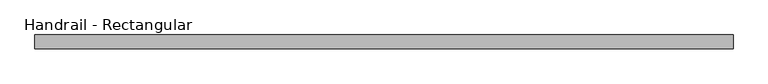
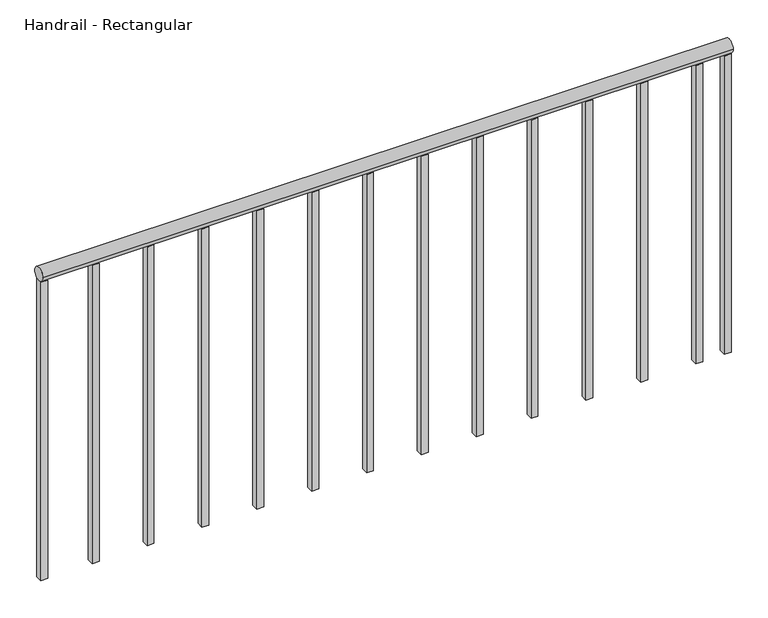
"""IFC4 building model written with IfcOpenShell, lengths in millimetres: railing geometry, Handrail - Rectangular."""

import ifcopenshell
import ifcopenshell.guid

model = None  # the IFC model being written
_history = None  # IfcOwnerHistory: only IFC2X3 demands one
_inside = {}  # id of a spatial element -> (the spatial element, [elements in it])
_under = {}  # id of a project, library or spatial element -> (it, [spatial elements below it])
_declared = {}  # id of a project -> (the project, [libraries it declares])
_typed = {}  # id of a type object -> (the type object, [elements of that type])
_made_of = {}  # id of a material, layer set ... -> (it, [elements and type objects made of it])


def new_model(schema):
    """Start an empty IFC model of exactly this schema.

    Asked for "IFC4X3", IfcOpenShell would pick the latest addendum, in which some entities
    have other attributes; the version numbers below select the first issue.
    IFC2X3 requires an IfcOwnerHistory on every rooted entity: one is made here for all.
    """
    global model, _history
    if schema == "IFC4X3":
        model = ifcopenshell.file(schema_version=(4, 3, 0, 0))
    else:
        model = ifcopenshell.file(schema=schema)
    _inside.clear()
    _under.clear()
    _declared.clear()
    _typed.clear()
    _made_of.clear()
    _history = None
    if model.schema == "IFC2X3":
        org = make("IfcOrganization", Name="unknown")
        user = make(
            "IfcPersonAndOrganization",
            ThePerson=make("IfcPerson", FamilyName="unknown"),
            TheOrganization=org,
        )
        app = make(
            "IfcApplication",
            ApplicationDeveloper=org,
            Version="unknown",
            ApplicationFullName="unknown",
            ApplicationIdentifier="unknown",
        )
        _history = make(
            "IfcOwnerHistory",
            OwningUser=user,
            OwningApplication=app,
            ChangeAction="ADDED",
            CreationDate=0,
        )
    return model


def make(cls, **values):
    """One entity of the class cls with the attributes given. An attribute that is None is left unset."""
    return model.create_entity(
        cls, **{name: value for name, value in values.items() if value is not None}
    )


def rooted(cls, **values):
    """An entity with a GlobalId (a new one), such as an element, a storey or a relation."""
    return make(cls, GlobalId=ifcopenshell.guid.new(), OwnerHistory=_history, **values)


def si_unit(unit_type, name, prefix=None):
    """IfcSIUnit, for example si_unit("LENGTHUNIT", "METRE", prefix="MILLI")."""
    return make("IfcSIUnit", UnitType=unit_type, Prefix=prefix, Name=name)


def assignment(units):
    """IfcUnitAssignment: the units of a project."""
    return None if units is None else make("IfcUnitAssignment", Units=units)


def point(xyz):
    """IfcCartesianPoint."""
    return None if xyz is None else make("IfcCartesianPoint", Coordinates=xyz)


def direction(xyz):
    """IfcDirection."""
    return None if xyz is None else make("IfcDirection", DirectionRatios=xyz)


def frame(location, z_axis=None, x_axis=None):
    """IfcAxis2Placement3D, a coordinate frame: its origin and axes. An axis left out is left unset."""
    return make(
        "IfcAxis2Placement3D",
        Location=point(location),
        Axis=direction(z_axis),
        RefDirection=direction(x_axis),
    )


def frame_2d(location, x_axis=None):
    """IfcAxis2Placement2D, a coordinate frame in the plane: its origin and x axis."""
    return make(
        "IfcAxis2Placement2D", Location=point(location), RefDirection=direction(x_axis)
    )


def origin():
    """The frame at (0, 0, 0) with its axes left unset."""
    return frame((0.0, 0.0, 0.0))


def place(relative_to, where):
    """IfcLocalPlacement: puts the frame where relative to a parent placement (None: the world)."""
    return make(
        "IfcLocalPlacement", PlacementRelTo=relative_to, RelativePlacement=where
    )


def context(
    kind, dimensions, precision=None, world=None, true_north=None, identifier=None
):
    """IfcGeometricRepresentationContext, for example the 3D "Model" context."""
    return make(
        "IfcGeometricRepresentationContext",
        ContextIdentifier=identifier,
        ContextType=kind,
        CoordinateSpaceDimension=dimensions,
        Precision=precision,
        WorldCoordinateSystem=world,
        TrueNorth=true_north,
    )


def project(units=None, contexts=None):
    """IfcProject with its units and contexts."""
    return rooted(
        "IfcProject",
        Name="project",
        RepresentationContexts=contexts,
        UnitsInContext=assignment(units),
    )


def spatial(cls, under=None, at=None, **own):
    """A site, building, storey or space (cls), placed at a placement, below another one or the project."""
    s = rooted(cls, ObjectPlacement=at, **own)
    if under is not None:
        _under.setdefault(under.id(), (under, []))[1].append(s)
    return s


def polyline(points):
    """IfcPolyline through the points."""
    return make("IfcPolyline", Points=[point(p) for p in points])


def circle_curve(where, radius):
    """IfcCircle in the frame where."""
    return make("IfcCircle", Position=where, Radius=radius)


def trimmed(basis, trim1, trim2, sense, master):
    """IfcTrimmedCurve: the piece of a basis curve between two trims."""
    return make(
        "IfcTrimmedCurve",
        BasisCurve=basis,
        Trim1=trim1,
        Trim2=trim2,
        SenseAgreement=sense,
        MasterRepresentation=master,
    )


def segment(curve, same_sense, transition):
    """IfcCompositeCurveSegment."""
    return make(
        "IfcCompositeCurveSegment",
        Transition=transition,
        SameSense=same_sense,
        ParentCurve=curve,
    )


def composite_curve(segments, self_intersect=None):
    """IfcCompositeCurve: segments joined end to end."""
    return make("IfcCompositeCurve", Segments=segments, SelfIntersect=self_intersect)


def outline(outer, holes=None, kind="AREA"):
    """IfcArbitraryClosedProfileDef: a profile drawn as a closed curve; with holes, ...WithVoids."""
    if holes is None:
        return make("IfcArbitraryClosedProfileDef", ProfileType=kind, OuterCurve=outer)
    return make(
        "IfcArbitraryProfileDefWithVoids",
        ProfileType=kind,
        OuterCurve=outer,
        InnerCurves=holes,
    )


def extrude(swept, where, along, depth):
    """IfcExtrudedAreaSolid: the profile swept, set in the frame where, extruded along a direction by depth."""
    return make(
        "IfcExtrudedAreaSolid",
        SweptArea=swept,
        Position=where,
        ExtrudedDirection=direction(along),
        Depth=depth,
    )


def shape(context_of_items, identifier, shape_type, items):
    """IfcShapeRepresentation: the items that make up one representation, for example the "Body"."""
    return make(
        "IfcShapeRepresentation",
        ContextOfItems=context_of_items,
        RepresentationIdentifier=identifier,
        RepresentationType=shape_type,
        Items=items,
    )


def source(mapping_origin, context_of_items, identifier, shape_type, items):
    """IfcRepresentationMap: a shape defined once, which mapped items show again and again."""
    return make(
        "IfcRepresentationMap",
        MappingOrigin=mapping_origin,
        MappedRepresentation=shape(context_of_items, identifier, shape_type, items),
    )


def transform(
    local_origin,
    x_axis=None,
    y_axis=None,
    z_axis=None,
    scale=None,
    scale2=None,
    scale3=None,
    uniform=True,
):
    """IfcCartesianTransformationOperator3D, or its non-uniform kind. x_axis, y_axis, z_axis: its Axis1, 2, 3."""
    if uniform:
        return make(
            "IfcCartesianTransformationOperator3D",
            Axis1=direction(x_axis),
            Axis2=direction(y_axis),
            LocalOrigin=point(local_origin),
            Scale=scale,
            Axis3=direction(z_axis),
        )
    return make(
        "IfcCartesianTransformationOperator3DnonUniform",
        Axis1=direction(x_axis),
        Axis2=direction(y_axis),
        LocalOrigin=point(local_origin),
        Scale=scale,
        Axis3=direction(z_axis),
        Scale2=scale2,
        Scale3=scale3,
    )


def mapped(mapping_source, mapping_target):
    """IfcMappedItem: shows the shape of a source again, moved by a transform."""
    return make(
        "IfcMappedItem", MappingSource=mapping_source, MappingTarget=mapping_target
    )


def made_of(thing, what):
    """Note that an element or type object is made of a material, layer set ...; save() writes the relation."""
    if what is not None:
        _made_of.setdefault(what.id(), (what, []))[1].append(thing)
    return thing


def element(
    cls,
    number,
    at=None,
    inside=None,
    cuts=None,
    type_object=None,
    material=None,
    context=None,
    identifier="Body",
    shape_type=None,
    held_by="IfcProductDefinitionShape",
    body=None,
    shapes=None,
    **own,
):
    """One element of the class cls, such as IfcWall. Its Tag is "e" and its number.

    at: its placement. inside: the storey or other place that contains it. cuts: it is an
    opening in that element (IfcRelVoidsElement). A single representation is given by context,
    identifier, shape_type and body (its items); several are given by shapes. held_by: the class
    of the entity that holds the representations. save() writes the other relations.
    """
    e = rooted(cls, Tag="e%d" % number, ObjectPlacement=at, **own)
    if body is not None:
        shapes = [shape(context, identifier, shape_type, body)]
    if shapes is not None:
        e.Representation = make(held_by, Representations=shapes)
    if inside is not None:
        _inside.setdefault(inside.id(), (inside, []))[1].append(e)
    if cuts is not None:
        rooted(
            "IfcRelVoidsElement", RelatingBuildingElement=cuts, RelatedOpeningElement=e
        )
    if type_object is not None:
        _typed.setdefault(type_object.id(), (type_object, []))[1].append(e)
    return made_of(e, material)


def aggregate(whole, parts):
    """IfcRelAggregates: a whole, such as a stair, and the parts it consists of."""
    return rooted("IfcRelAggregates", RelatingObject=whole, RelatedObjects=parts)


def save(model, path):
    """Write the relations noted so far, then the file.

    IfcRelAggregates (storeys below a building ...), IfcRelContainedInSpatialStructure (elements
    in a storey), IfcRelDefinesByType, IfcRelAssociatesMaterial and IfcRelDeclares: one each for
    every whole, place, type object, material and project.
    """
    for whole, parts in _under.values():
        aggregate(whole, parts)
    for where, things in _inside.values():
        rooted(
            "IfcRelContainedInSpatialStructure",
            RelatedElements=things,
            RelatingStructure=where,
        )
    for kind, things in _typed.values():
        rooted("IfcRelDefinesByType", RelatedObjects=things, RelatingType=kind)
    for what, things in _made_of.values():
        rooted("IfcRelAssociatesMaterial", RelatedObjects=things, RelatingMaterial=what)
    for by, libraries in _declared.values():
        rooted("IfcRelDeclares", RelatingContext=by, RelatedDefinitions=libraries)
    model.write(path)


def handrail_rectangular_335e7b33(model_context):
    return source(origin(), model_context, "Body", "SweptSolid", [
        extrude(outline(composite_curve([segment(trimmed(circle_curve(frame_2d((6610.8316867, 10039.35)), 19.05), [point((6629.8816867, 10039.35))], [point((6591.7816867, 10039.35))], False, "CARTESIAN"), True, "CONTINUOUS"), segment(trimmed(circle_curve(frame_2d((6610.8316867, 10039.35)), 19.05), [point((6591.7816867, 10039.35))], [point((6629.8816867, 10039.35))], False, "CARTESIAN"), True, "CONTINUOUS")], self_intersect=False)), frame((-15124.0839563, 0.0, 0.0), z_axis=(1.0, 0.0, 0.0), x_axis=(0.0, 1.0, 0.0)), (0.0, 0.0, 1.0), 1917.7),
        extrude(outline(polyline([(-13304.8089563, 6601.3066867), (-13304.8089563, 6620.3566867), (-13285.7589563, 6620.3566867), (-13285.7589563, 6601.3066867), (-13304.8089563, 6601.3066867)])), frame((0.0, 0.0, 9144.0), z_axis=(0.0, 0.0, 1.0), x_axis=(1.0, 0.0, 0.0)), (0.0, 0.0, 1.0), 876.3),
        extrude(outline(polyline([(-13457.2089563, 6601.3066867), (-13457.2089563, 6620.3566867), (-13438.1589563, 6620.3566867), (-13438.1589563, 6601.3066867), (-13457.2089563, 6601.3066867)])), frame((0.0, 0.0, 9144.0), z_axis=(0.0, 0.0, 1.0), x_axis=(1.0, 0.0, 0.0)), (0.0, 0.0, 1.0), 876.3),
        extrude(outline(polyline([(-13609.6089563, 6601.3066867), (-13609.6089563, 6620.3566867), (-13590.5589563, 6620.3566867), (-13590.5589563, 6601.3066867), (-13609.6089563, 6601.3066867)])), frame((0.0, 0.0, 9144.0), z_axis=(0.0, 0.0, 1.0), x_axis=(1.0, 0.0, 0.0)), (0.0, 0.0, 1.0), 876.3),
        extrude(outline(polyline([(-13762.0089563, 6601.3066867), (-13762.0089563, 6620.3566867), (-13742.9589563, 6620.3566867), (-13742.9589563, 6601.3066867), (-13762.0089563, 6601.3066867)])), frame((0.0, 0.0, 9144.0), z_axis=(0.0, 0.0, 1.0), x_axis=(1.0, 0.0, 0.0)), (0.0, 0.0, 1.0), 876.3),
        extrude(outline(polyline([(-13914.4089563, 6601.3066867), (-13914.4089563, 6620.3566867), (-13895.3589563, 6620.3566867), (-13895.3589563, 6601.3066867), (-13914.4089563, 6601.3066867)])), frame((0.0, 0.0, 9144.0), z_axis=(0.0, 0.0, 1.0), x_axis=(1.0, 0.0, 0.0)), (0.0, 0.0, 1.0), 876.3),
        extrude(outline(polyline([(-14066.8089563, 6601.3066867), (-14066.8089563, 6620.3566867), (-14047.7589563, 6620.3566867), (-14047.7589563, 6601.3066867), (-14066.8089563, 6601.3066867)])), frame((0.0, 0.0, 9144.0), z_axis=(0.0, 0.0, 1.0), x_axis=(1.0, 0.0, 0.0)), (0.0, 0.0, 1.0), 876.3),
        extrude(outline(polyline([(-14219.2089563, 6601.3066867), (-14219.2089563, 6620.3566867), (-14200.1589563, 6620.3566867), (-14200.1589563, 6601.3066867), (-14219.2089563, 6601.3066867)])), frame((0.0, 0.0, 9144.0), z_axis=(0.0, 0.0, 1.0), x_axis=(1.0, 0.0, 0.0)), (0.0, 0.0, 1.0), 876.3),
        extrude(outline(polyline([(-14371.6089563, 6601.3066867), (-14371.6089563, 6620.3566867), (-14352.5589563, 6620.3566867), (-14352.5589563, 6601.3066867), (-14371.6089563, 6601.3066867)])), frame((0.0, 0.0, 9144.0), z_axis=(0.0, 0.0, 1.0), x_axis=(1.0, 0.0, 0.0)), (0.0, 0.0, 1.0), 876.3),
        extrude(outline(polyline([(-14524.0089563, 6601.3066867), (-14524.0089563, 6620.3566867), (-14504.9589563, 6620.3566867), (-14504.9589563, 6601.3066867), (-14524.0089563, 6601.3066867)])), frame((0.0, 0.0, 9144.0), z_axis=(0.0, 0.0, 1.0), x_axis=(1.0, 0.0, 0.0)), (0.0, 0.0, 1.0), 876.3),
        extrude(outline(polyline([(-14676.4089563, 6601.3066867), (-14676.4089563, 6620.3566867), (-14657.3589563, 6620.3566867), (-14657.3589563, 6601.3066867), (-14676.4089563, 6601.3066867)])), frame((0.0, 0.0, 9144.0), z_axis=(0.0, 0.0, 1.0), x_axis=(1.0, 0.0, 0.0)), (0.0, 0.0, 1.0), 876.3),
        extrude(outline(polyline([(-14828.8089563, 6601.3066867), (-14828.8089563, 6620.3566867), (-14809.7589563, 6620.3566867), (-14809.7589563, 6601.3066867), (-14828.8089563, 6601.3066867)])), frame((0.0, 0.0, 9144.0), z_axis=(0.0, 0.0, 1.0), x_axis=(1.0, 0.0, 0.0)), (0.0, 0.0, 1.0), 876.3),
        extrude(outline(polyline([(-14981.2089563, 6601.3066867), (-14981.2089563, 6620.3566867), (-14962.1589563, 6620.3566867), (-14962.1589563, 6601.3066867), (-14981.2089563, 6601.3066867)])), frame((0.0, 0.0, 9144.0), z_axis=(0.0, 0.0, 1.0), x_axis=(1.0, 0.0, 0.0)), (0.0, 0.0, 1.0), 876.3),
        extrude(outline(polyline([(-13225.4339563, 6601.3066867), (-13225.4339563, 6620.3566867), (-13206.3839563, 6620.3566867), (-13206.3839563, 6601.3066867), (-13225.4339563, 6601.3066867)])), frame((0.0, 0.0, 9144.0), z_axis=(0.0, 0.0, 1.0), x_axis=(1.0, 0.0, 0.0)), (0.0, 0.0, 1.0), 876.3),
        extrude(outline(polyline([(-15124.0839563, 6601.3066867), (-15124.0839563, 6620.3566867), (-15105.0339563, 6620.3566867), (-15105.0339563, 6601.3066867), (-15124.0839563, 6601.3066867)])), frame((0.0, 0.0, 9144.0), z_axis=(0.0, 0.0, 1.0), x_axis=(1.0, 0.0, 0.0)), (0.0, 0.0, 1.0), 876.3),
    ])


if __name__ == "__main__":
    model = new_model("IFC4")
    model_context = context("Model", 3, world=origin())
    ifc_project = project(units=[si_unit("LENGTHUNIT", "METRE", prefix="MILLI")], contexts=[model_context])
    site = spatial("IfcSite", under=ifc_project)
    building = spatial("IfcBuilding", under=site)
    placement = place(None, origin())
    handrail_rectangular_shape = handrail_rectangular_335e7b33(model_context)
    element("IfcRailing", 1, ObjectType="Handrail - Rectangular", at=placement, inside=building, context=model_context, shape_type="MappedRepresentation", body=[
        mapped(handrail_rectangular_shape, transform((0.0, 0.0, 0.0), x_axis=(1.0, 0.0, 0.0), y_axis=(0.0, 1.0, 0.0), z_axis=(0.0, 0.0, 1.0))),
    ])
    save(model, "model.ifc")
